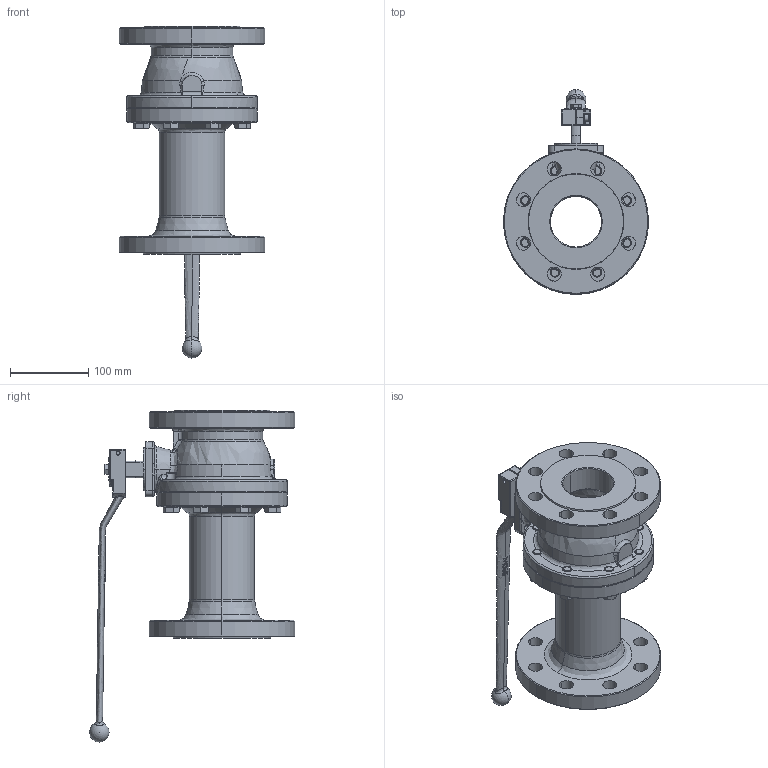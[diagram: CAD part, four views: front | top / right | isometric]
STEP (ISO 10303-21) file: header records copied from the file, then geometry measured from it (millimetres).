
FILE_DESCRIPTION (( 'STEP AP214' ), '1' );
FILE_NAME ('0340065.STEP', '2015-06-15T07:56:02', ( 'pere' ), ( '' ), 'SwSTEP 2.0', 'SolidWorks 2013', '' );
FILE_SCHEMA (( 'AUTOMOTIVE_DESIGN' ));
Length unit declared in the file: millimetre
Products named in the file (9): 0340065L; 0540065C; 0340065; DIN 912 M6 x 20 --- 20C_DIN 912 M6 x 20 --- 20C; ISO 4017 - M12 x 35-C; ISO 4017 - M8 x 16-N_ISO 4017 - M8 x 16-N; 5165_17; M065CHST; EPI65Q
Assembly tree (15 placements, depth 2):
  0340065
    0540065C
    0340065L
    EPI65Q
    M065CHST
    5165_17
    ISO 4017 - M8 x 16-N_ISO 4017 - M8 x 16-N
    ISO 4017 - M12 x 35-C  x8
    DIN 912 M6 x 20 --- 20C_DIN 912 M6 x 20 --- 20C
Bounding box: 185 x 261.38 x 423 mm (x, y, z)
Volume: 2246058.3 mm3; surface area: 404947.6 mm2
Topology: 15 solids, 15 shells, 865 faces, 2093 edges, 1247 vertices
Faces by surface type: plane 251, cylinder 237, cone 167, bspline 156, torus 38, sphere 16
Entity records: 44791 total; most frequent: CARTESIAN_POINT 29479, ORIENTED_EDGE 3268, DIRECTION 2836, EDGE_CURVE 1634, AXIS2_PLACEMENT_3D 1168, VERTEX_POINT 1006, EDGE_LOOP 764, FACE_OUTER_BOUND 662
